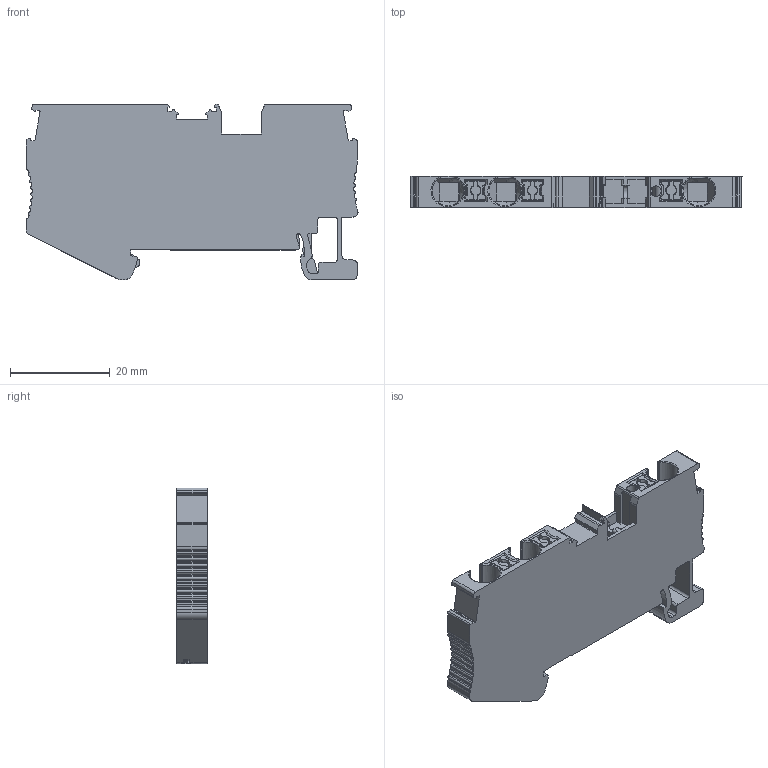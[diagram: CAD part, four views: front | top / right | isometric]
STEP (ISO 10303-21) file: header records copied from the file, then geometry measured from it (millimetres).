
FILE_DESCRIPTION((''),'2;1');
FILE_NAME('ADMI34C4530DHLNT_17','2024-04-01T14:32:04',('Administrator'),(''),'CREO PARAMETRIC BY PTC INC, 2018050','CREO PARAMETRIC BY PTC INC, 2018050','');
FILE_SCHEMA(('CONFIG_CONTROL_DESIGN'));
Length unit declared in the file: millimetre
Products named in the file (1): ADMI34C4530DHLNT_17
Bounding box: 66.54 x 6.2 x 35.25 mm (x, y, z)
Volume: 10458.9 mm3; surface area: 7261.8 mm2
Topology: 1 solids, 5 shells, 985 faces, 2876 edges, 1893 vertices
Faces by surface type: plane 593, cylinder 339, torus 18, cone 17, extrusion 12, bspline 6
Entity records: 33536 total; most frequent: CARTESIAN_POINT 7124, ORIENTED_EDGE 5744, DIRECTION 5279, EDGE_CURVE 2872, VECTOR 2037, LINE 2025, VERTEX_POINT 1893, AXIS2_PLACEMENT_3D 1621
